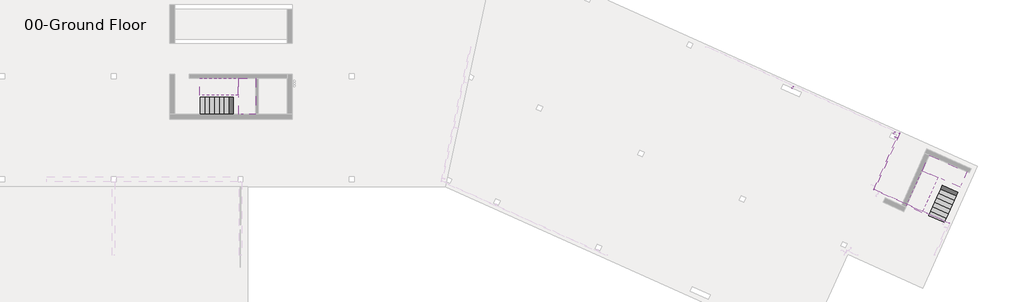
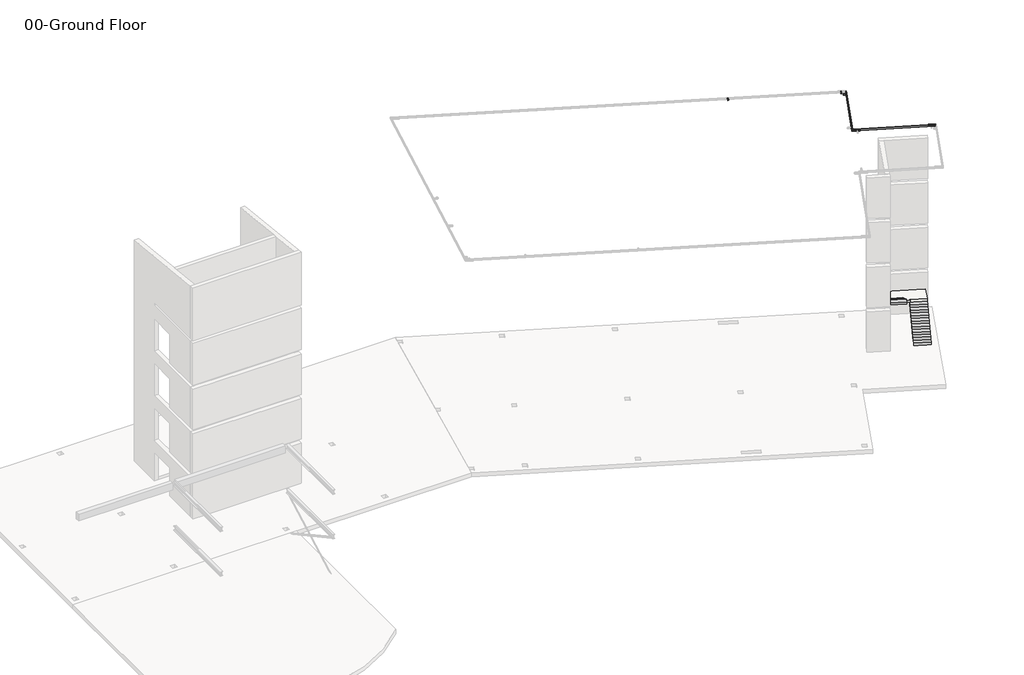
# One storey, part 5 of 5: 5 beams, 4 stair flights, 2 slabs.
"""IFC4 building model written with IfcOpenShell, lengths in millimetres."""

from ifc_helpers import new_model, si_unit, frame, origin, place, context, project, spatial, polyline, ellipse_curve, faceted_brep, transform, mapped, element, save
from ifc_brep_helpers import plane_surface, cylinder_surface, revolved_surface, advanced_brep
from components import hss_hollow_structural_section_hss3x2x1_8_a8fac2c2, hss_hollow_structural_section_hss3x2x1_8_4cf7df58, hss_hollow_structural_section_hss3x2x1_8_9bae5ac0

model = new_model("IFC4")

# Units and contexts
model_context = context("Model", 3, world=origin())
ifc_project = project(units=[si_unit("LENGTHUNIT", "METRE", prefix="MILLI")], contexts=[model_context])

# Site, building, storey
site = spatial("IfcSite", under=ifc_project)
building = spatial("IfcBuilding", under=site)
storey = spatial("IfcBuildingStorey", under=building, Name="00-Ground Floor", Elevation=0.0)

# Beams
placement = place(None, origin())
hss_hollow_structural_section_hss3x2x1_8_shape = hss_hollow_structural_section_hss3x2x1_8_a8fac2c2(model_context)
element("IfcBeam", 1, ObjectType="HSS-Hollow Structural Section : HSS3X2X1/8", at=placement, inside=storey, context=model_context, shape_type="MappedRepresentation", body=[
    mapped(hss_hollow_structural_section_hss3x2x1_8_shape, transform((56149.9496224, -11115.2429491, 16658.2302755), x_axis=(0.40919454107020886, 0.9109449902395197, 0.05233595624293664), y_axis=(-0.9121951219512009, 0.40975609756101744, 0.0), z_axis=(-0.021444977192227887, -0.04774060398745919, 0.9986295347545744))),
])
hss_hollow_structural_section_hss3x2x1_8_2_shape = hss_hollow_structural_section_hss3x2x1_8_4cf7df58(model_context)
element("IfcBeam", 2, ObjectType="HSS-Hollow Structural Section : HSS3X2X1/8", at=placement, inside=storey, context=model_context, shape_type="MappedRepresentation", body=[
    mapped(hss_hollow_structural_section_hss3x2x1_8_2_shape, transform((49758.4300196, -8235.2687316, 16658.6565762), x_axis=(0.40919454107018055, 0.9109449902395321, 0.052335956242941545), y_axis=(-0.9121951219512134, 0.40975609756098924, 0.0), z_axis=(-0.021444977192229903, -0.047740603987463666, 0.998629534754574))),
])
hss_hollow_structural_section_hss3x2x1_8_3_shape = hss_hollow_structural_section_hss3x2x1_8_9bae5ac0(model_context)
element("IfcBeam", 3, ObjectType="HSS-Hollow Structural Section : HSS3X2X1/8", at=placement, inside=storey, context=model_context, shape_type="MappedRepresentation", body=[
    mapped(hss_hollow_structural_section_hss3x2x1_8_3_shape, transform((56223.3592947, -11323.7476071, 16649.8389058), x_axis=(0.9121951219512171, -0.4097560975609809, 0.0), y_axis=(0.40919454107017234, 0.9109449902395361, 0.052335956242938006), z_axis=(-0.021444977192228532, -0.0477406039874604, 0.9986295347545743))),
])
element("IfcBeam", 4, ObjectType="HSS-Hollow Structural Section : HSS5X2X1/8", at=placement, inside=storey, context=model_context, shape_type="AdvancedBrep", body=[
    advanced_brep(
    [(54925.8991442, -14631.6764659, 16501.9897587), (54933.8122002, -14628.4417342, 16496.4134399), (56526.4681746, -11082.8861722, 16700.1140396), (56518.5551186, -11086.120904, 16705.6903584), (54874.3459194, -14651.2300499, 16499.9479028), (56467.0018937, -11105.6744879, 16703.6485024), (54866.6856053, -14653.90213, 16493.7547733), (56459.3415797, -11108.346568, 16697.455373), (54869.1563755, -14648.4017249, 16378.6982707), (56461.8123499, -11102.8461629, 16582.3988703), (54877.0694315, -14645.1669932, 16373.1219519), (56469.7254058, -11099.6114312, 16576.8225515), (54928.6226563, -14625.6134092, 16375.1638078), (56521.2786307, -11080.0578473, 16578.8644074), (54936.2829704, -14622.9413292, 16381.3569373), (56528.9389447, -11077.3857672, 16585.0575369), (54925.9623297, -14631.535803, 16499.0473967), (54874.4091048, -14651.089387, 16497.0055407), (56467.0650792, -11105.533825, 16700.7061404), (56518.6183041, -11085.980241, 16702.7479963), (54929.9188577, -14629.9184372, 16496.2592373), (56522.5748321, -11084.3628752, 16699.9598369), (54932.3896279, -14624.4180321, 16381.2027346), (56525.0456022, -11078.8624701, 16584.9033342), (54928.5594708, -14625.7540722, 16378.1061699), (56521.2154452, -11080.1985102, 16581.8067695), (54877.006246, -14645.3076561, 16376.0643139), (56469.6622203, -11099.7520941, 16579.7649136), (54873.049718, -14646.925022, 16378.8524733), (56465.7056924, -11101.36946, 16582.553073), (54870.5789478, -14652.425427, 16493.908976), (56463.2349222, -11106.869865, 16697.6095756)],
    [
        (0, 1, ellipse_curve(frame((54926.0255152, -14631.3951401, 16496.1050346), z_axis=(-0.3556751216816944, 0.93387669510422, 0.0370071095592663), x_axis=(-0.934363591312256, -0.3543940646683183, -0.037007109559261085)), 8.3336777, 5.8928)),
        (1, 2),
        (2, 3, ellipse_curve(frame((56518.6814896, -11085.8395781, 16699.8056342), z_axis=(0.35567512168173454, -0.9338766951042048, -0.037007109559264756), x_axis=(-0.9343635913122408, -0.3543940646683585, -0.03700710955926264)), 8.3336777, 5.8928)),
        (3, 0),
        (4, 0),
        (3, 5),
        (5, 4),
        (6, 4, ellipse_curve(frame((54874.4722903, -14650.948724, 16494.0631787), z_axis=(-0.3556751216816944, 0.93387669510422, 0.0370071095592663), x_axis=(-0.934363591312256, -0.3543940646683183, -0.037007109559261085)), 8.3336777, 5.8928)),
        (5, 7, ellipse_curve(frame((56467.1282647, -11105.3931621, 16697.7637783), z_axis=(0.35567512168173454, -0.9338766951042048, -0.037007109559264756), x_axis=(-0.9343635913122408, -0.3543940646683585, -0.03700710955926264)), 8.3336777, 5.8928)),
        (7, 6),
        (8, 6),
        (7, 9),
        (9, 8),
        (10, 8, ellipse_curve(frame((54876.9430605, -14645.448319, 16379.006676), z_axis=(-0.3556751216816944, 0.93387669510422, 0.0370071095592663), x_axis=(-0.934363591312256, -0.3543940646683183, -0.037007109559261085)), 8.3336777, 5.8928)),
        (9, 11, ellipse_curve(frame((56469.5990349, -11099.892757, 16582.7072756), z_axis=(0.35567512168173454, -0.9338766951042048, -0.037007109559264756), x_axis=(-0.9343635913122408, -0.3543940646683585, -0.03700710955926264)), 8.3336777, 5.8928)),
        (11, 10),
        (12, 10),
        (11, 13),
        (13, 12),
        (14, 12, ellipse_curve(frame((54928.4962854, -14625.8947351, 16381.0485319), z_axis=(-0.3556751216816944, 0.93387669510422, 0.0370071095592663), x_axis=(-0.934363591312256, -0.3543940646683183, -0.037007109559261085)), 8.3336777, 5.8928)),
        (13, 15, ellipse_curve(frame((56521.1522597, -11080.3391731, 16584.7491316), z_axis=(0.35567512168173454, -0.9338766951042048, -0.037007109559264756), x_axis=(-0.9343635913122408, -0.3543940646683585, -0.03700710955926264)), 8.3336777, 5.8928)),
        (15, 14),
        (1, 14),
        (15, 2),
        (16, 17),
        (17, 18),
        (18, 19),
        (19, 16),
        (20, 16, ellipse_curve(frame((54926.0255152, -14631.3951401, 16496.1050346), z_axis=(0.3556751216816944, -0.93387669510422, -0.0370071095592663), x_axis=(0.934363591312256, 0.3543940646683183, 0.037007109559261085)), 4.1668388, 2.9464)),
        (19, 21, ellipse_curve(frame((56518.6814896, -11085.8395781, 16699.8056342), z_axis=(-0.35567512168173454, 0.9338766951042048, 0.037007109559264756), x_axis=(0.9343635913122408, 0.3543940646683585, 0.03700710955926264)), 4.1668388, 2.9464)),
        (21, 20),
        (22, 20),
        (21, 23),
        (23, 22),
        (24, 22, ellipse_curve(frame((54928.4962854, -14625.8947351, 16381.0485319), z_axis=(0.3556751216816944, -0.93387669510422, -0.0370071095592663), x_axis=(0.934363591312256, 0.3543940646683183, 0.037007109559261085)), 4.1668388, 2.9464)),
        (23, 25, ellipse_curve(frame((56521.1522597, -11080.3391731, 16584.7491316), z_axis=(-0.35567512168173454, 0.9338766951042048, 0.037007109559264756), x_axis=(0.9343635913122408, 0.3543940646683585, 0.03700710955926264)), 4.1668388, 2.9464)),
        (25, 24),
        (26, 24),
        (25, 27),
        (27, 26),
        (28, 26, ellipse_curve(frame((54876.9430605, -14645.448319, 16379.006676), z_axis=(0.3556751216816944, -0.93387669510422, -0.0370071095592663), x_axis=(0.934363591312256, 0.3543940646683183, 0.037007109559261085)), 4.1668388, 2.9464)),
        (27, 29, ellipse_curve(frame((56469.5990349, -11099.892757, 16582.7072756), z_axis=(-0.35567512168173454, 0.9338766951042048, 0.037007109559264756), x_axis=(0.9343635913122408, 0.3543940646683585, 0.03700710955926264)), 4.1668388, 2.9464)),
        (29, 28),
        (30, 28),
        (29, 31),
        (31, 30),
        (17, 30, ellipse_curve(frame((54874.4722903, -14650.948724, 16494.0631787), z_axis=(0.3556751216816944, -0.93387669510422, -0.0370071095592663), x_axis=(0.934363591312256, 0.3543940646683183, 0.037007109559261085)), 4.1668388, 2.9464)),
        (31, 18, ellipse_curve(frame((56467.1282647, -11105.3931621, 16697.7637783), z_axis=(-0.35567512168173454, 0.9338766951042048, 0.037007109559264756), x_axis=(0.9343635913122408, 0.3543940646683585, 0.03700710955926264)), 4.1668388, 2.9464)),
    ],
    [
        cylinder_surface(frame((54918.0432754, -14649.1651262, 16495.0841066), z_axis=(-0.40919454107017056, -0.9109449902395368, -0.05233595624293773), x_axis=(-0.9121951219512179, 0.40975609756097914, 0.0)), 5.8928),
        plane_surface(frame((54917.9169045, -14649.4464521, 16500.9688308), z_axis=(-0.021444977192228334, -0.04774060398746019, 0.9986295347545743), x_axis=(0.4091945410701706, 0.9109449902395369, 0.052335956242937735))),
        cylinder_surface(frame((54882.4545301, -14633.1787379, 16495.0841066), z_axis=(-0.40919454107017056, -0.9109449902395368, -0.05233595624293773), x_axis=(-0.9121951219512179, 0.40975609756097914, 0.0)), 5.8928),
        plane_surface(frame((54877.0791467, -14630.7641272, 16495.0841066), z_axis=(-0.9121951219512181, 0.40975609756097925, 0.0), x_axis=(0.4091945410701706, 0.9109449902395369, 0.052335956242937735))),
        cylinder_surface(frame((54884.9253002, -14627.6783329, 16380.027604), z_axis=(-0.40919454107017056, -0.9109449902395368, -0.05233595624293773), x_axis=(-0.9121951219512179, 0.40975609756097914, 0.0)), 5.8928),
        plane_surface(frame((54885.0516712, -14627.3970071, 16374.1428798), z_axis=(0.021444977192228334, 0.04774060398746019, -0.9986295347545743), x_axis=(0.4091945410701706, 0.9109449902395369, 0.052335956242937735))),
        cylinder_surface(frame((54920.5140456, -14643.6647212, 16380.027604), z_axis=(-0.40919454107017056, -0.9109449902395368, -0.05233595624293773), x_axis=(-0.9121951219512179, 0.40975609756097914, 0.0)), 5.8928),
        plane_surface(frame((54925.889429, -14646.0793319, 16380.027604), z_axis=(0.9121951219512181, -0.40975609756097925, 0.0), x_axis=(0.4091945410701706, 0.9109449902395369, 0.052335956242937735))),
        plane_surface(frame((54882.3913446, -14633.3194009, 16498.0264687), z_axis=(0.021444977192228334, 0.04774060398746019, -0.9986295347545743), x_axis=(0.4091945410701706, 0.9109449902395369, 0.052335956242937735))),
        revolved_surface(polyline([(56517.19944861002, -11081.948264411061, 16699.959836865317), (54922.13217266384, -14632.8718430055, 16495.950831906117)]), (54918.0432754, -14649.1651262, 16495.0841066), (0.40919454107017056, 0.9109449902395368, 0.05233595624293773)),
        plane_surface(frame((54920.7309671, -14650.3724316, 16495.0841066), z_axis=(-0.9121951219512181, 0.40975609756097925, 0.0), x_axis=(0.4091945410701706, 0.9109449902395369, 0.052335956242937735))),
        revolved_surface(polyline([(56519.670218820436, -11076.447859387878, 16584.903334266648), (54924.6029428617, -14627.37143801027, 16380.894329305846)]), (54920.5140456, -14643.6647212, 16380.027604), (0.40919454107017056, 0.9109449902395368, 0.05233595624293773)),
        plane_surface(frame((54920.5772311, -14643.5240583, 16377.0852419), z_axis=(-0.021444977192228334, -0.04774060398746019, 0.9986295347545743), x_axis=(0.4091945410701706, 0.9109449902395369, 0.052335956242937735))),
        revolved_surface(polyline([(56468.11699391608, -11096.001443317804, 16582.86147833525), (54873.0497179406, -14646.92502197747, 16378.852473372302)]), (54884.9253002, -14627.6783329, 16380.027604), (0.40919454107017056, 0.9109449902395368, 0.05233595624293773)),
        plane_surface(frame((54882.2376085, -14626.4710275, 16380.027604), z_axis=(0.9121951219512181, -0.40975609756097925, 0.0), x_axis=(0.4091945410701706, 0.9109449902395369, 0.052335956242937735))),
        revolved_surface(polyline([(56465.64622376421, -11101.501848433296, 16697.91798092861), (54870.578947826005, -14652.425427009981, 16493.908975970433)]), (54882.4545301, -14633.1787379, 16495.0841066), (0.40919454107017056, 0.9109449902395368, 0.05233595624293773)),
        plane_surface(frame((56457.5811015, -11112.2657278, 16779.4356677), z_axis=(-0.3556751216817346, 0.933876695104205, 0.03700710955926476), x_axis=(0.9346096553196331, 0.35539618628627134, 0.014083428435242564))),
        plane_surface(frame((54932.051722, -14632.3608941, 16578.3937346), z_axis=(0.35567512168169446, -0.9338766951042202, -0.03700710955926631), x_axis=(0.9346096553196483, 0.35539618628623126, 0.01408342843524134))),
    ],
    [
        (0, [[1, 2, 3, 4]]),
        (1, [[5, -4, 6, 7]]),
        (2, [[8, -7, 9, 10]]),
        (3, [[11, -10, 12, 13]]),
        (4, [[14, -13, 15, 16]]),
        (5, [[17, -16, 18, 19]]),
        (6, [[20, -19, 21, 22]]),
        (7, [[23, -22, 24, -2]]),
        (8, [[25, 26, 27, 28]]),
        (9, [[29, -28, 30, 31]]),
        (10, [[32, -31, 33, 34]]),
        (11, [[35, -34, 36, 37]]),
        (12, [[38, -37, 39, 40]]),
        (13, [[41, -40, 42, 43]]),
        (14, [[44, -43, 45, 46]]),
        (15, [[47, -46, 48, -26]]),
        (16, [[-24, -21, -18, -15, -12, -9, -6, -3], [-48, -45, -42, -39, -36, -33, -30, -27]]),
        (17, [[-1, -5, -8, -11, -14, -17, -20, -23], [-25, -29, -32, -35, -38, -41, -44, -47]]),
    ],
),
])
element("IfcBeam", 5, ObjectType="HSS-Hollow Structural Section : HSS5X2X1/8", at=placement, inside=storey, context=model_context, shape_type="AdvancedBrep", body=[
    advanced_brep(
    [(59652.5293881, -16754.8686611, 16501.9897587), (59660.4424441, -16751.6339293, 16496.4134399), (54933.8122002, -14628.4417342, 16496.4134399), (54925.8991442, -14631.6764659, 16501.9897587), (59600.9761633, -16774.422245, 16499.9479028), (54874.3459194, -14651.2300499, 16499.9479028), (59593.3158492, -16777.0943251, 16493.7547733), (54866.6856053, -14653.90213, 16493.7547733), (59595.7866194, -16771.59392, 16378.6982707), (54869.1563755, -14648.4017249, 16378.6982707), (59603.6996754, -16768.3591883, 16373.1219519), (54877.0694315, -14645.1669932, 16373.1219519), (59655.2529002, -16748.8056044, 16375.1638078), (54928.6226563, -14625.6134092, 16375.1638078), (59662.9132143, -16746.1335243, 16381.3569373), (54936.2829704, -14622.9413292, 16381.3569373), (59652.5925736, -16754.7279982, 16499.0473967), (59601.0393487, -16774.2815821, 16497.0055407), (54874.4091048, -14651.089387, 16497.0055407), (54925.9623297, -14631.535803, 16499.0473967), (59656.5491016, -16753.1106323, 16496.2592373), (54929.9188577, -14629.9184372, 16496.2592373), (59659.0198718, -16747.6102272, 16381.2027346), (54932.3896279, -14624.4180321, 16381.2027346), (59655.1897147, -16748.9462673, 16378.1061699), (54928.5594708, -14625.7540722, 16378.1061699), (59603.6364899, -16768.4998512, 16376.0643139), (54877.006246, -14645.3076561, 16376.0643139), (59599.6799619, -16770.1172171, 16378.8524733), (54873.049718, -14646.925022, 16378.8524733), (59597.2091917, -16775.6176221, 16493.908976), (54870.5789478, -14652.425427, 16493.908976)],
    [
        (0, 1, ellipse_curve(frame((59652.6557591, -16754.5873352, 16496.1050346), z_axis=(-0.35567512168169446, 0.93387669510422, 0.03700710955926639), x_axis=(0.9343635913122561, 0.35439406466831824, 0.037007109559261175)), 8.3336777, 5.8928)),
        (1, 2),
        (2, 3, ellipse_curve(frame((54926.0255152, -14631.3951401, 16496.1050346), z_axis=(0.3556751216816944, -0.93387669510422, -0.0370071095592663), x_axis=(0.9343635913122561, 0.35439406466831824, 0.037007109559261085)), 8.3336777, 5.8928)),
        (3, 0),
        (4, 0),
        (3, 5),
        (5, 4),
        (6, 4, ellipse_curve(frame((59601.1025342, -16774.1409192, 16494.0631787), z_axis=(-0.35567512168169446, 0.93387669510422, 0.03700710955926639), x_axis=(0.9343635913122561, 0.35439406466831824, 0.037007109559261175)), 8.3336777, 5.8928)),
        (5, 7, ellipse_curve(frame((54874.4722903, -14650.948724, 16494.0631787), z_axis=(0.3556751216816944, -0.93387669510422, -0.0370071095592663), x_axis=(0.9343635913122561, 0.35439406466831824, 0.037007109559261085)), 8.3336777, 5.8928)),
        (7, 6),
        (8, 6),
        (7, 9),
        (9, 8),
        (10, 8, ellipse_curve(frame((59603.5733044, -16768.6405141, 16379.006676), z_axis=(-0.35567512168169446, 0.93387669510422, 0.03700710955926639), x_axis=(0.9343635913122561, 0.35439406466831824, 0.037007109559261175)), 8.3336777, 5.8928)),
        (9, 11, ellipse_curve(frame((54876.9430605, -14645.448319, 16379.006676), z_axis=(0.3556751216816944, -0.93387669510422, -0.0370071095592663), x_axis=(0.9343635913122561, 0.35439406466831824, 0.037007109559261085)), 8.3336777, 5.8928)),
        (11, 10),
        (12, 10),
        (11, 13),
        (13, 12),
        (14, 12, ellipse_curve(frame((59655.1265293, -16749.0869302, 16381.0485319), z_axis=(-0.35567512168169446, 0.93387669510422, 0.03700710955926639), x_axis=(0.9343635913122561, 0.35439406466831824, 0.037007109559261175)), 8.3336777, 5.8928)),
        (13, 15, ellipse_curve(frame((54928.4962854, -14625.8947351, 16381.0485319), z_axis=(0.3556751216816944, -0.93387669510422, -0.0370071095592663), x_axis=(0.9343635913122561, 0.35439406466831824, 0.037007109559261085)), 8.3336777, 5.8928)),
        (15, 14),
        (1, 14),
        (15, 2),
        (16, 17),
        (17, 18),
        (18, 19),
        (19, 16),
        (20, 16, ellipse_curve(frame((59652.6557591, -16754.5873352, 16496.1050346), z_axis=(0.35567512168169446, -0.93387669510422, -0.03700710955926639), x_axis=(-0.9343635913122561, -0.35439406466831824, -0.037007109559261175)), 4.1668388, 2.9464)),
        (19, 21, ellipse_curve(frame((54926.0255152, -14631.3951401, 16496.1050346), z_axis=(-0.3556751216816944, 0.93387669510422, 0.0370071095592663), x_axis=(-0.9343635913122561, -0.35439406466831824, -0.037007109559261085)), 4.1668388, 2.9464)),
        (21, 20),
        (22, 20),
        (21, 23),
        (23, 22),
        (24, 22, ellipse_curve(frame((59655.1265293, -16749.0869302, 16381.0485319), z_axis=(0.35567512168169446, -0.93387669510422, -0.03700710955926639), x_axis=(-0.9343635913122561, -0.35439406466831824, -0.037007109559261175)), 4.1668388, 2.9464)),
        (23, 25, ellipse_curve(frame((54928.4962854, -14625.8947351, 16381.0485319), z_axis=(-0.3556751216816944, 0.93387669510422, 0.0370071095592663), x_axis=(-0.9343635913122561, -0.35439406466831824, -0.037007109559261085)), 4.1668388, 2.9464)),
        (25, 24),
        (26, 24),
        (25, 27),
        (27, 26),
        (28, 26, ellipse_curve(frame((59603.5733044, -16768.6405141, 16379.006676), z_axis=(0.35567512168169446, -0.93387669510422, -0.03700710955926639), x_axis=(-0.9343635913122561, -0.35439406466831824, -0.037007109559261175)), 4.1668388, 2.9464)),
        (27, 29, ellipse_curve(frame((54876.9430605, -14645.448319, 16379.006676), z_axis=(-0.3556751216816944, 0.93387669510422, 0.0370071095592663), x_axis=(-0.9343635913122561, -0.35439406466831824, -0.037007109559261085)), 4.1668388, 2.9464)),
        (29, 28),
        (30, 28),
        (29, 31),
        (31, 30),
        (17, 30, ellipse_curve(frame((59601.1025342, -16774.1409192, 16494.0631787), z_axis=(0.35567512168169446, -0.93387669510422, -0.03700710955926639), x_axis=(-0.9343635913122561, -0.35439406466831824, -0.037007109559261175)), 4.1668388, 2.9464)),
        (31, 18, ellipse_curve(frame((54874.4722903, -14650.948724, 16494.0631787), z_axis=(-0.3556751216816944, 0.93387669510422, 0.0370071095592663), x_axis=(-0.9343635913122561, -0.35439406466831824, -0.037007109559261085)), 4.1668388, 2.9464)),
    ],
    [
        cylinder_surface(frame((59634.8613864, -16746.5941411, 16496.1050346), z_axis=(0.9121951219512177, -0.4097560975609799, 0.0), x_axis=(-0.40919454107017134, -0.9109449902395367, -0.05233595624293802)), 5.8928),
        plane_surface(frame((59634.7350154, -16746.8754669, 16501.9897587), z_axis=(-0.02144497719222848, -0.047740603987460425, 0.9986295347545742), x_axis=(-0.9121951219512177, 0.4097560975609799, 0.0))),
        cylinder_surface(frame((59618.8969069, -16782.1341133, 16494.0631787), z_axis=(0.9121951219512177, -0.4097560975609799, 0.0), x_axis=(-0.40919454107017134, -0.9109449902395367, -0.05233595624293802)), 5.8928),
        plane_surface(frame((59616.4856053, -16787.50213, 16493.7547733), z_axis=(-0.40919454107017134, -0.9109449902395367, -0.05233595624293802), x_axis=(-0.9121951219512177, 0.4097560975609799, 0.0))),
        cylinder_surface(frame((59621.3676771, -16776.6337083, 16379.006676), z_axis=(0.9121951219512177, -0.4097560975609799, 0.0), x_axis=(-0.40919454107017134, -0.9109449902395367, -0.05233595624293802)), 5.8928),
        plane_surface(frame((59621.494048, -16776.3523824, 16373.1219519), z_axis=(0.02144497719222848, 0.047740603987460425, -0.9986295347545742), x_axis=(-0.9121951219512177, 0.4097560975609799, 0.0))),
        cylinder_surface(frame((59637.3321566, -16741.093736, 16381.0485319), z_axis=(0.9121951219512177, -0.4097560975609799, 0.0), x_axis=(-0.40919454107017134, -0.9109449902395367, -0.05233595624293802)), 5.8928),
        plane_surface(frame((59639.7434582, -16735.7257194, 16381.3569373), z_axis=(0.40919454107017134, 0.9109449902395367, 0.05233595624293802), x_axis=(-0.9121951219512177, 0.4097560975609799, 0.0))),
        plane_surface(frame((59618.8337214, -16782.2747762, 16497.0055407), z_axis=(0.02144497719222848, 0.047740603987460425, -0.9986295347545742), x_axis=(-0.9121951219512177, 0.4097560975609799, 0.0))),
        revolved_surface(polyline([(54922.13217271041, -14632.871843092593, 16495.950831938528), (59654.13780000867, -16758.47864893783, 16495.950831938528)]), (59634.8613864, -16746.5941411, 16496.1050346), (-0.9121951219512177, 0.4097560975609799, 0.0)),
        plane_surface(frame((59636.0670372, -16743.9101328, 16496.2592373), z_axis=(-0.40919454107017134, -0.9109449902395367, -0.05233595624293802), x_axis=(-0.9121951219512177, 0.4097560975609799, 0.0))),
        revolved_surface(polyline([(54924.60294294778, -14627.37143800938, 16380.894329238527), (59656.60857020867, -16752.97824383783, 16380.894329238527)]), (59637.3321566, -16741.093736, 16381.0485319), (-0.9121951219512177, 0.4097560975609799, 0.0)),
        plane_surface(frame((59637.3953421, -16740.9530731, 16378.1061699), z_axis=(-0.02144497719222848, -0.047740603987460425, 0.9986295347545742), x_axis=(-0.9121951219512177, 0.4097560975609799, 0.0))),
        revolved_surface(polyline([(54873.04971800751, -14646.925021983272, 16378.852473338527), (59605.0553452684, -16772.53182781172, 16378.852473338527)]), (59621.3676771, -16776.6337083, 16379.006676), (-0.9121951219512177, 0.4097560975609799, 0.0)),
        plane_surface(frame((59620.1620263, -16779.3177166, 16378.8524733), z_axis=(0.40919454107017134, 0.9109449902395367, 0.05233595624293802), x_axis=(-0.9121951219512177, 0.4097560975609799, 0.0))),
        revolved_surface(polyline([(54870.57894780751, -14652.42542698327, 16493.908976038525), (59602.58457510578, -16778.032232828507, 16493.908976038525)]), (59618.8969069, -16782.1341133, 16494.0631787), (-0.9121951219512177, 0.4097560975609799, 0.0)),
        plane_surface(frame((54932.051722, -14632.3608941, 16578.3937346), z_axis=(-0.35567512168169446, 0.9338766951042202, 0.03700710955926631), x_axis=(0.9346096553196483, 0.35539618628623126, 0.01408342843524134))),
        plane_surface(frame((59591.555371, -16781.0134849, 16575.735068), z_axis=(0.3556751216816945, -0.9338766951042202, -0.0370071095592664), x_axis=(0.9346096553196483, 0.35539618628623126, 0.014083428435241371))),
    ],
    [
        (0, [[1, 2, 3, 4]]),
        (1, [[5, -4, 6, 7]]),
        (2, [[8, -7, 9, 10]]),
        (3, [[11, -10, 12, 13]]),
        (4, [[14, -13, 15, 16]]),
        (5, [[17, -16, 18, 19]]),
        (6, [[20, -19, 21, 22]]),
        (7, [[23, -22, 24, -2]]),
        (8, [[25, 26, 27, 28]]),
        (9, [[29, -28, 30, 31]]),
        (10, [[32, -31, 33, 34]]),
        (11, [[35, -34, 36, 37]]),
        (12, [[38, -37, 39, 40]]),
        (13, [[41, -40, 42, 43]]),
        (14, [[44, -43, 45, 46]]),
        (15, [[47, -46, 48, -26]]),
        (16, [[-24, -21, -18, -15, -12, -9, -6, -3], [-48, -45, -42, -39, -36, -33, -30, -27]]),
        (17, [[-1, -5, -8, -11, -14, -17, -20, -23], [-25, -29, -32, -35, -38, -41, -44, -47]]),
    ],
),
])

# Slabs
element("IfcSlab", 6, ObjectType="7\" Thickness", at=placement, inside=storey, context=model_context, shape_type="Brep", body=[
    faceted_brep([(14884.4, -8826.5, 1775.0117647), (14903.45, -8826.5, 1775.0117647), (14903.45, -9893.3, 1775.0117647), (15167.2458186, -9893.3, 1775.0117647), (15951.2, -9893.3, 1775.0117647), (15951.2, -7633.3081651, 1775.0117647), (14906.3541814, -7633.3081651, 1775.0117647), (14884.4, -7633.3081651, 1775.0117647), (14865.35, -7633.3081651, 1775.0117647), (14865.35, -8700.1081651, 1775.0117647), (14884.4, -8700.1081651, 1775.0117647), (14884.4, -8826.5, 1597.2117647), (14903.45, -8826.5, 1597.2117647), (14903.45, -8826.5, 1577.7882353), (14903.45, -8826.5, 1426.5203527), (14903.45, -9893.3, 1426.5203527), (14903.45, -9893.3, 1577.7882353), (15167.2458186, -9893.3, 1597.2117647), (15951.2, -9893.3, 1597.2117647), (15951.2, -7633.3081651, 1597.2117647), (14906.3541814, -7633.3081651, 1597.2117647), (14884.4, -7633.3081651, 1611.4174115), (14865.35, -7633.3081651, 1623.7438821), (14865.35, -8700.1081651, 1623.7438821), (14884.4, -8700.1081651, 1611.4174115), (14884.4, -8700.1081651, 1597.2117647), (14906.3541814, -8700.1081651, 1597.2117647), (15167.2458186, -8826.5, 1597.2117647)], [[[0, 1, 2, 3, 4, 5, 6, 7, 8, 9, 10]], [[1, 0, 11, 12]], [[2, 1, 12, 13, 14, 15, 16]], [[2, 16, 15, 17, 18, 4, 3]], [[5, 4, 18, 19]], [[5, 19, 20, 21, 7, 6]], [[8, 7, 21, 22]], [[9, 8, 22, 23]], [[10, 9, 23, 24]], [[0, 10, 24, 25, 11]], [[25, 26, 20, 19, 18, 17, 27, 12, 11]], [[26, 25, 24]], [[27, 17, 15, 14]], [[12, 27, 14, 13]], [[20, 26, 24, 23, 22, 21]]]),
])
element("IfcSlab", 7, ObjectType="7\" Thickness", at=placement, inside=storey, context=model_context, shape_type="Brep", body=[
    faceted_brep([(59335.95414, -14064.6614634, 1775.0117647), (59343.7599937, -14047.2841463, 1775.0117647), (60316.8897498, -14484.4119512, 1775.0117647), (60424.981695, -14243.7786923, 1775.0117647), (60746.211701, -13528.6595122, 1775.0117647), (58382.896579, -12467.0634146, 1775.0117647), (57954.7646338, -13420.1666736, 1775.0117647), (57945.7687742, -13440.1931707, 1775.0117647), (57937.9629205, -13457.5704878, 1775.0117647), (58911.0926766, -13894.6982927, 1775.0117647), (58918.8985303, -13877.3209756, 1775.0117647), (59335.95414, -14064.6614634, 1597.2117647), (59343.7599937, -14047.2841463, 1597.2117647), (59343.7599937, -14047.2841463, 1577.7882353), (59343.7599937, -14047.2841463, 1426.5203527), (60316.8897498, -14484.4119512, 1426.5203527), (60316.8897498, -14484.4119512, 1577.7882353), (60424.981695, -14243.7786923, 1597.2117647), (60746.211701, -13528.6595122, 1597.2117647), (58382.896579, -12467.0634146, 1597.2117647), (57954.7646338, -13420.1666736, 1597.2117647), (57945.7687742, -13440.1931707, 1611.4174115), (57937.9629205, -13457.5704878, 1623.7438821), (58911.0926766, -13894.6982927, 1623.7438821), (58918.8985303, -13877.3209756, 1611.4174115), (58918.8985303, -13877.3209756, 1597.2117647), (58927.8943899, -13857.2944785, 1597.2117647), (59451.8519389, -13806.6508874, 1597.2117647)], [[[0, 1, 2, 3, 4, 5, 6, 7, 8, 9, 10]], [[1, 0, 11, 12]], [[2, 1, 12, 13, 14, 15, 16]], [[2, 16, 15, 17, 18, 4, 3]], [[5, 4, 18, 19]], [[5, 19, 20, 21, 7, 6]], [[8, 7, 21, 22]], [[9, 8, 22, 23]], [[10, 9, 23, 24]], [[0, 10, 24, 25, 11]], [[25, 26, 20, 19, 18, 17, 27, 12, 11]], [[26, 25, 24]], [[27, 17, 15, 14]], [[12, 27, 14, 13]], [[20, 26, 24, 23, 22, 21]]]),
])

# Stair flights
element("IfcStairFlight", 8, ObjectType="3/4\" Nosing", at=placement, inside=storey, context=model_context, shape_type="Brep", body=[
    faceted_brep([(12769.85, -8826.5, 197.2235294), (12465.05, -8826.5, 197.2235294), (12465.05, -9893.3, 197.2235294), (12769.85, -9893.3, 197.2235294), (12769.85, -8826.5, 45.9556468), (12698.8276368, -8826.5, 0.0), (12465.05, -8826.5, 0.0), (12465.05, -9893.3, 0.0), (12698.8276368, -9893.3, 0.0), (12769.85, -9893.3, 45.9556468), (13074.65, -8826.5, 394.4470588), (12769.85, -8826.5, 394.4470588), (12769.85, -9893.3, 394.4470588), (13074.65, -9893.3, 394.4470588), (13074.65, -8826.5, 243.1791762), (13074.65, -9893.3, 243.1791762), (13379.45, -8826.5, 591.6705882), (13074.65, -8826.5, 591.6705882), (13074.65, -9893.3, 591.6705882), (13379.45, -9893.3, 591.6705882), (13379.45, -8826.5, 440.4027056), (13379.45, -9893.3, 440.4027056), (13684.25, -8826.5, 788.8941176), (13379.45, -8826.5, 788.8941176), (13379.45, -9893.3, 788.8941176), (13684.25, -9893.3, 788.8941176), (13684.25, -8826.5, 637.626235), (13684.25, -9893.3, 637.626235), (13989.05, -8826.5, 986.1176471), (13684.25, -8826.5, 986.1176471), (13684.25, -9893.3, 986.1176471), (13989.05, -9893.3, 986.1176471), (13989.05, -8826.5, 834.8497644), (13989.05, -9893.3, 834.8497644), (14293.85, -8826.5, 1183.3411765), (13989.05, -8826.5, 1183.3411765), (13989.05, -9893.3, 1183.3411765), (14293.85, -9893.3, 1183.3411765), (14293.85, -8826.5, 1032.0732938), (14293.85, -9893.3, 1032.0732938), (14598.65, -8826.5, 1380.5647059), (14293.85, -8826.5, 1380.5647059), (14293.85, -9893.3, 1380.5647059), (14598.65, -9893.3, 1380.5647059), (14598.65, -8826.5, 1229.2968232), (14598.65, -9893.3, 1229.2968232), (14903.45, -8826.5, 1577.7882353), (14598.65, -8826.5, 1577.7882353), (14598.65, -9893.3, 1577.7882353), (14884.4, -9893.3, 1577.7882353), (14903.45, -9893.3, 1577.7882353), (14903.45, -8826.5, 1426.5203527), (14884.4, -9893.3, 1414.1938821), (14903.45, -9893.3, 1426.5203527)], [[[0, 1, 2, 3]], [[1, 0, 4, 5, 6]], [[2, 1, 6, 7]], [[3, 2, 7, 8, 9]], [[10, 11, 12, 13]], [[11, 10, 14, 4, 0]], [[0, 3, 12, 11]], [[13, 12, 3, 9, 15]], [[16, 17, 18, 19]], [[17, 16, 20, 14, 10]], [[10, 13, 18, 17]], [[19, 18, 13, 15, 21]], [[22, 23, 24, 25]], [[23, 22, 26, 20, 16]], [[16, 19, 24, 23]], [[25, 24, 19, 21, 27]], [[28, 29, 30, 31]], [[29, 28, 32, 26, 22]], [[22, 25, 30, 29]], [[31, 30, 25, 27, 33]], [[34, 35, 36, 37]], [[35, 34, 38, 32, 28]], [[28, 31, 36, 35]], [[37, 36, 31, 33, 39]], [[40, 41, 42, 43]], [[41, 40, 44, 38, 34]], [[34, 37, 42, 41]], [[43, 42, 37, 39, 45]], [[46, 47, 48, 49, 50]], [[47, 46, 51, 44, 40]], [[40, 43, 48, 47]], [[49, 48, 43, 45, 52]], [[46, 50, 53, 51]], [[7, 6, 5, 8]], [[8, 5, 4, 14, 20, 26, 32, 38, 44, 51, 53, 52, 45, 39, 33, 27, 21, 15, 9]], [[50, 49, 52, 53]]]),
])
element("IfcStairFlight", 9, ObjectType="3/4\" Nosing", at=placement, inside=storey, context=model_context, shape_type="Brep", body=[
    faceted_brep([(14560.55, -8700.1081651, 1972.2352941), (14865.35, -8700.1081651, 1972.2352941), (14865.35, -7633.3081651, 1972.2352941), (14560.55, -7633.3081651, 1972.2352941), (14560.55, -8700.1081651, 1820.9674115), (14865.35, -8700.1081651, 1623.7438821), (14865.35, -8700.1081651, 1775.0117647), (14865.35, -7633.3081651, 1623.7438821), (14865.35, -7633.3081651, 1775.0117647), (14560.55, -7633.3081651, 1820.9674115), (14255.75, -8700.1081651, 2169.4588235), (14560.55, -8700.1081651, 2169.4588235), (14560.55, -7633.3081651, 2169.4588235), (14255.75, -7633.3081651, 2169.4588235), (14255.75, -8700.1081651, 2018.1909409), (14255.75, -7633.3081651, 2018.1909409), (13950.95, -8700.1081651, 2366.6823529), (14255.75, -8700.1081651, 2366.6823529), (14255.75, -7633.3081651, 2366.6823529), (13950.95, -7633.3081651, 2366.6823529), (13950.95, -8700.1081651, 2215.4144703), (13950.95, -7633.3081651, 2215.4144703), (13646.15, -8700.1081651, 2563.9058824), (13950.95, -8700.1081651, 2563.9058824), (13950.95, -7633.3081651, 2563.9058824), (13646.15, -7633.3081651, 2563.9058824), (13646.15, -8700.1081651, 2412.6379997), (13646.15, -7633.3081651, 2412.6379997), (13341.35, -8700.1081651, 2761.1294118), (13646.15, -8700.1081651, 2761.1294118), (13646.15, -7633.3081651, 2761.1294118), (13341.35, -7633.3081651, 2761.1294118), (13341.35, -8700.1081651, 2609.8615291), (13341.35, -7633.3081651, 2609.8615291), (13036.55, -8700.1081651, 2958.3529412), (13341.35, -8700.1081651, 2958.3529412), (13341.35, -7633.3081651, 2958.3529412), (13036.55, -7633.3081651, 2958.3529412), (13036.55, -8700.1081651, 2807.0850585), (13036.55, -7633.3081651, 2807.0850585), (12731.75, -8700.1081651, 3004.3085879), (12446.0, -8700.1081651, 3189.2056468), (12446.0, -7633.3081651, 3189.2056468), (12731.75, -7633.3081651, 3004.3085879), (12446.0, -8700.1081651, 3352.8), (12731.75, -8700.1081651, 3352.8), (12731.75, -7633.3081651, 3352.8), (12446.0, -7633.3081651, 3352.8), (12731.75, -8700.1081651, 3155.5764706), (12731.75, -7633.3081651, 3155.5764706), (13036.55, -8700.1081651, 3155.5764706), (13036.55, -7633.3081651, 3155.5764706)], [[[0, 1, 2, 3]], [[1, 0, 4, 5, 6]], [[2, 1, 6, 5, 7, 8]], [[3, 2, 8, 7, 9]], [[10, 11, 12, 13]], [[11, 10, 14, 4, 0]], [[12, 11, 0, 3]], [[13, 12, 3, 9, 15]], [[16, 17, 18, 19]], [[17, 16, 20, 14, 10]], [[18, 17, 10, 13]], [[19, 18, 13, 15, 21]], [[22, 23, 24, 25]], [[23, 22, 26, 20, 16]], [[24, 23, 16, 19]], [[25, 24, 19, 21, 27]], [[28, 29, 30, 31]], [[29, 28, 32, 26, 22]], [[30, 29, 22, 25]], [[31, 30, 25, 27, 33]], [[34, 35, 36, 37]], [[35, 34, 38, 32, 28]], [[36, 35, 28, 31]], [[37, 36, 31, 33, 39]], [[5, 4, 14, 20, 26, 32, 38, 40, 41, 42, 43, 39, 33, 27, 21, 15, 9, 7]], [[44, 45, 46, 47]], [[45, 44, 41, 40, 48]], [[46, 45, 48, 49]], [[47, 46, 49, 43, 42]], [[44, 47, 42, 41]], [[48, 50, 51, 49]], [[50, 48, 40, 38, 34]], [[51, 50, 34, 37]], [[49, 51, 37, 39, 43]]]),
])
element("IfcStairFlight", 10, ObjectType="3/4\" Nosing", at=placement, inside=storey, context=model_context, shape_type="Brep", body=[
    faceted_brep([(58469.5043839, -15993.5436585, 197.2235294), (58344.6107254, -16271.5807317, 197.2235294), (59317.7404815, -16708.7085366, 197.2235294), (59442.63414, -16430.6714634, 197.2235294), (58469.5043839, -15993.5436585, 45.9556468), (58440.4025375, -16058.3299118, 0.0), (58344.6107254, -16271.5807317, 0.0), (59317.7404815, -16708.7085366, 0.0), (59413.5322936, -16495.4577167, 0.0), (59442.63414, -16430.6714634, 45.9556468), (58594.3980425, -15715.5065854, 394.4470588), (58469.5043839, -15993.5436585, 394.4470588), (59442.63414, -16430.6714634, 394.4470588), (59567.5277985, -16152.6343902, 394.4470588), (58594.3980425, -15715.5065854, 243.1791762), (59567.5277985, -16152.6343902, 243.1791762), (58719.291701, -15437.4695122, 591.6705882), (58594.3980425, -15715.5065854, 591.6705882), (59567.5277985, -16152.6343902, 591.6705882), (59692.4214571, -15874.5973171, 591.6705882), (58719.291701, -15437.4695122, 440.4027056), (59692.4214571, -15874.5973171, 440.4027056), (58844.1853595, -15159.432439, 788.8941176), (58719.291701, -15437.4695122, 788.8941176), (59692.4214571, -15874.5973171, 788.8941176), (59817.3151156, -15596.5602439, 788.8941176), (58844.1853595, -15159.432439, 637.626235), (59817.3151156, -15596.5602439, 637.626235), (58969.0790181, -14881.3953659, 986.1176471), (58844.1853595, -15159.432439, 986.1176471), (59817.3151156, -15596.5602439, 986.1176471), (59942.2087742, -15318.5231707, 986.1176471), (58969.0790181, -14881.3953659, 834.8497644), (59942.2087742, -15318.5231707, 834.8497644), (59093.9726766, -14603.3582927, 1183.3411765), (58969.0790181, -14881.3953659, 1183.3411765), (59942.2087742, -15318.5231707, 1183.3411765), (60067.1024327, -15040.4860976, 1183.3411765), (59093.9726766, -14603.3582927, 1032.0732938), (60067.1024327, -15040.4860976, 1032.0732938), (59218.8663351, -14325.3212195, 1380.5647059), (59093.9726766, -14603.3582927, 1380.5647059), (60067.1024327, -15040.4860976, 1380.5647059), (60191.9960912, -14762.4490244, 1380.5647059), (59218.8663351, -14325.3212195, 1229.2968232), (60191.9960912, -14762.4490244, 1229.2968232), (59343.7599937, -14047.2841463, 1577.7882353), (59218.8663351, -14325.3212195, 1577.7882353), (60191.9960912, -14762.4490244, 1577.7882353), (60309.0838961, -14501.7892683, 1577.7882353), (60316.8897498, -14484.4119512, 1577.7882353), (59343.7599937, -14047.2841463, 1426.5203527), (60309.0838961, -14501.7892683, 1414.1938821), (60316.8897498, -14484.4119512, 1426.5203527)], [[[0, 1, 2, 3]], [[1, 0, 4, 5, 6]], [[2, 1, 6, 7]], [[3, 2, 7, 8, 9]], [[10, 11, 12, 13]], [[11, 10, 14, 4, 0]], [[0, 3, 12, 11]], [[13, 12, 3, 9, 15]], [[16, 17, 18, 19]], [[17, 16, 20, 14, 10]], [[10, 13, 18, 17]], [[19, 18, 13, 15, 21]], [[22, 23, 24, 25]], [[23, 22, 26, 20, 16]], [[16, 19, 24, 23]], [[25, 24, 19, 21, 27]], [[28, 29, 30, 31]], [[29, 28, 32, 26, 22]], [[22, 25, 30, 29]], [[31, 30, 25, 27, 33]], [[34, 35, 36, 37]], [[35, 34, 38, 32, 28]], [[28, 31, 36, 35]], [[37, 36, 31, 33, 39]], [[40, 41, 42, 43]], [[41, 40, 44, 38, 34]], [[34, 37, 42, 41]], [[43, 42, 37, 39, 45]], [[46, 47, 48, 49, 50]], [[47, 46, 51, 44, 40]], [[40, 43, 48, 47]], [[49, 48, 43, 45, 52]], [[46, 50, 53, 51]], [[7, 6, 5, 8]], [[8, 5, 4, 14, 20, 26, 32, 38, 44, 51, 53, 52, 45, 39, 33, 27, 21, 15, 9]], [[50, 49, 52, 53]]]),
])
element("IfcStairFlight", 11, ObjectType="3/4\" Nosing", at=placement, inside=storey, context=model_context, shape_type="Brep", body=[
    faceted_brep([(58786.1990181, -14172.7353659, 1972.2352941), (58911.0926766, -13894.6982927, 1972.2352941), (57937.9629205, -13457.5704878, 1972.2352941), (57813.069262, -13735.607561, 1972.2352941), (58786.1990181, -14172.7353659, 1820.9674115), (58911.0926766, -13894.6982927, 1623.7438821), (58911.0926766, -13894.6982927, 1775.0117647), (57937.9629205, -13457.5704878, 1623.7438821), (57937.9629205, -13457.5704878, 1775.0117647), (57813.069262, -13735.607561, 1820.9674115), (58661.3053595, -14450.772439, 2169.4588235), (58786.1990181, -14172.7353659, 2169.4588235), (57813.069262, -13735.607561, 2169.4588235), (57688.1756034, -14013.6446341, 2169.4588235), (58661.3053595, -14450.772439, 2018.1909409), (57688.1756034, -14013.6446341, 2018.1909409), (58536.411701, -14728.8095122, 2366.6823529), (58661.3053595, -14450.772439, 2366.6823529), (57688.1756034, -14013.6446341, 2366.6823529), (57563.2819449, -14291.6817073, 2366.6823529), (58536.411701, -14728.8095122, 2215.4144703), (57563.2819449, -14291.6817073, 2215.4144703), (58411.5180425, -15006.8465854, 2563.9058824), (58536.411701, -14728.8095122, 2563.9058824), (57563.2819449, -14291.6817073, 2563.9058824), (57438.3882864, -14569.7187805, 2563.9058824), (58411.5180425, -15006.8465854, 2412.6379997), (57438.3882864, -14569.7187805, 2412.6379997), (58286.6243839, -15284.8836585, 2761.1294118), (58411.5180425, -15006.8465854, 2761.1294118), (57438.3882864, -14569.7187805, 2761.1294118), (57313.4946278, -14847.7558537, 2761.1294118), (58286.6243839, -15284.8836585, 2609.8615291), (57313.4946278, -14847.7558537, 2609.8615291), (58161.7307254, -15562.9207317, 2958.3529412), (58286.6243839, -15284.8836585, 2958.3529412), (57313.4946278, -14847.7558537, 2958.3529412), (57188.6009693, -15125.7929268, 2958.3529412), (58161.7307254, -15562.9207317, 2807.0850585), (57188.6009693, -15125.7929268, 2807.0850585), (58036.8370668, -15840.9578049, 3004.3085879), (57919.749262, -16101.617561, 3189.2056468), (56946.6195059, -15664.4897561, 3189.2056468), (57063.7073107, -15403.83, 3004.3085879), (58036.8370668, -15840.9578049, 3155.5764706), (58161.7307254, -15562.9207317, 3155.5764706), (57188.6009693, -15125.7929268, 3155.5764706), (57063.7073107, -15403.83, 3155.5764706), (57919.749262, -16101.617561, 3352.8), (58036.8370668, -15840.9578049, 3352.8), (57063.7073107, -15403.83, 3352.8), (56946.6195059, -15664.4897561, 3352.8)], [[[0, 1, 2, 3]], [[1, 0, 4, 5, 6]], [[2, 1, 6, 5, 7, 8]], [[3, 2, 8, 7, 9]], [[10, 11, 12, 13]], [[11, 10, 14, 4, 0]], [[12, 11, 0, 3]], [[13, 12, 3, 9, 15]], [[16, 17, 18, 19]], [[17, 16, 20, 14, 10]], [[18, 17, 10, 13]], [[19, 18, 13, 15, 21]], [[22, 23, 24, 25]], [[23, 22, 26, 20, 16]], [[24, 23, 16, 19]], [[25, 24, 19, 21, 27]], [[28, 29, 30, 31]], [[29, 28, 32, 26, 22]], [[30, 29, 22, 25]], [[31, 30, 25, 27, 33]], [[34, 35, 36, 37]], [[35, 34, 38, 32, 28]], [[36, 35, 28, 31]], [[37, 36, 31, 33, 39]], [[5, 4, 14, 20, 26, 32, 38, 40, 41, 42, 43, 39, 33, 27, 21, 15, 9, 7]], [[44, 45, 46, 47]], [[45, 44, 40, 38, 34]], [[46, 45, 34, 37]], [[47, 46, 37, 39, 43]], [[48, 49, 50, 51]], [[49, 48, 41, 40, 44]], [[50, 49, 44, 47]], [[51, 50, 47, 43, 42]], [[48, 51, 42, 41]]]),
])

save(model, "model.ifc")
